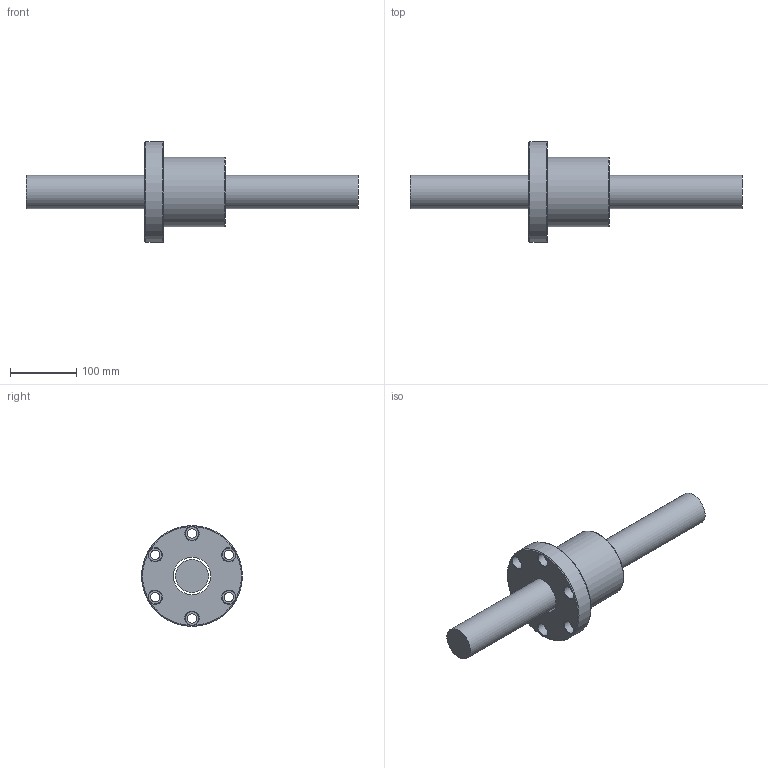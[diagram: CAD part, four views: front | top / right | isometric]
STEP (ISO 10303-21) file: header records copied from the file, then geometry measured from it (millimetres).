
FILE_DESCRIPTION (( 'STEP AP203' ), '1' );
FILE_NAME ('SFV05020N-2.7.step', '2024-05-20T03:40:12', ( '' ), ( '' ), 'SwSTEP 2.0', 'SolidWorks 2022', '' );
FILE_SCHEMA (( 'CONFIG_CONTROL_DESIGN' ));
Length unit declared in the file: millimetre
Products named in the file (1): SFV05020N-2.7
Bounding box: 500 x 152 x 152 mm (x, y, z)
Volume: 1952608.7 mm3; surface area: 185859 mm2
Topology: 2 solids, 2 shells, 55 faces, 139 edges, 89 vertices
Faces by surface type: cylinder 23, cone 13, plane 12, bspline 4, torus 3
Full cylindrical faces by diameter (mm): 4 x1, 7 x5, 14 x6, 20 x6, 50 x1, 56.4 x1, 105 x1, 152 x1
Entity records: 3023 total; most frequent: CARTESIAN_POINT 1972, DIRECTION 206, ORIENTED_EDGE 148, EDGE_LOOP 102, AXIS2_PLACEMENT_3D 101, EDGE_CURVE 74, FACE_OUTER_BOUND 72, VERTEX_POINT 64
